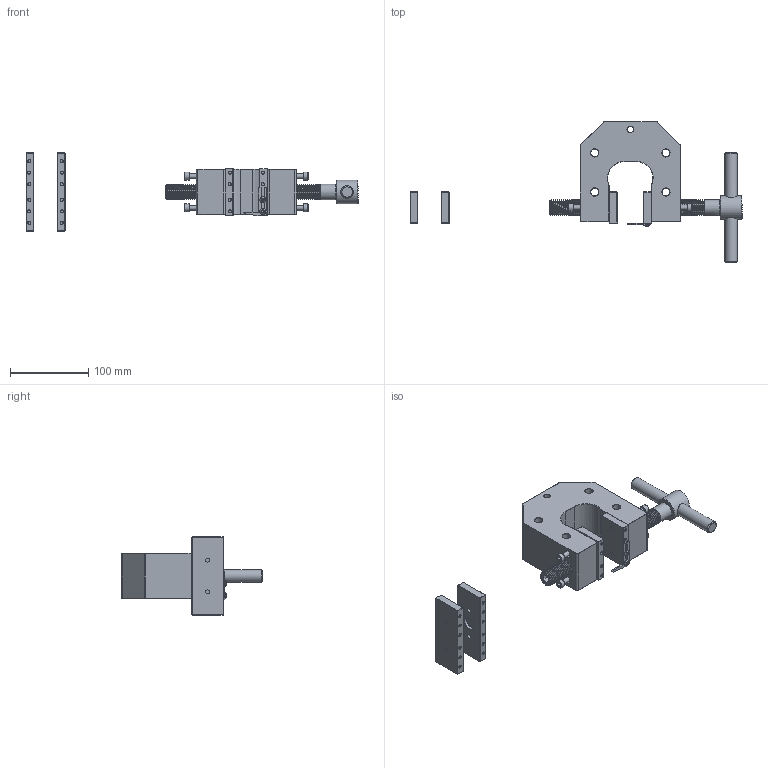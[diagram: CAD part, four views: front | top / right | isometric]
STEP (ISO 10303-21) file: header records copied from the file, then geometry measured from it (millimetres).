
FILE_DESCRIPTION((''),'2;1');
FILE_NAME('F:\SHARED FILES\DENE\3D MARKETING MODELS\WORK IN PROGRESS\NEW GRIPS 112117\G1100\G1100 MODEL.stp','2017-11-29T09:51:59',('mlampen'),(''),'Autodesk Inventor 2010','Autodesk Inventor 2010','');
FILE_SCHEMA(('AUTOMOTIVE_DESIGN { 1 0 10303 214 1 1 1 1 }'));
Length unit declared in the file: inch
Products named in the file (1): G1100 MODEL
Bounding box: 424.36 x 179.95 x 99.82 mm (x, y, z)
Volume: 819809.8 mm3; surface area: 147136.3 mm2
Topology: 12 solids, 12 shells, 617 faces, 2496 edges, 1958 vertices
Faces by surface type: plane 262, cylinder 185, cone 143, bspline 23, sphere 2, torus 2
Full cylindrical faces by diameter (mm): 3.531 x20, 5.08 x8, 6 x92, 6.096 x4, 7.6 x2, 8.001 x2, 10 x8, 10.414 x4, 14.351 x2, 15.494 x2, 15.9 x1, 15.977 x2, 16.066 x4, 17.501 x2, 20.066 x1, 29.972 x1
Entity records: 40392 total; most frequent: CARTESIAN_POINT 24913, ORIENTED_EDGE 4386, EDGE_CURVE 2193, DIRECTION 2138, VERTEX_POINT 1902, AXIS2_PLACEMENT_3D 841, EDGE_LOOP 757, FACE_OUTER_BOUND 523
